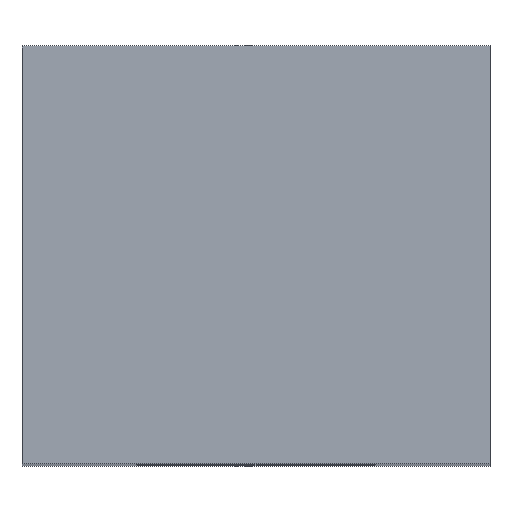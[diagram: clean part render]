
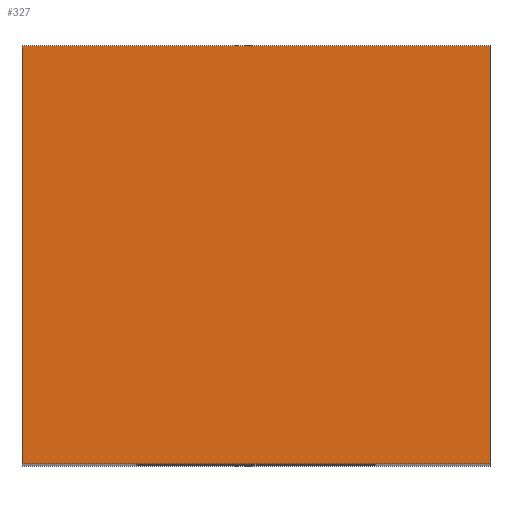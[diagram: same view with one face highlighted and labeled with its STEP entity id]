
A CAD part, top view. The second image highlights one B-rep face of the part: STEP entity #327.
In plain terms, the highlighted planar face has unit normal (0, 0, 1).
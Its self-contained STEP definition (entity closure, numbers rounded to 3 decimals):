
#24 = VERTEX_POINT('',#25);
#25 = CARTESIAN_POINT('',(0.98,4.2,6.88));
#32 = PLANE('',#33);
#33 = AXIS2_PLACEMENT_3D('',#34,#35,#36);
#34 = CARTESIAN_POINT('',(0.98,4.2,1.72));
#35 = DIRECTION('',(0.,1.,0.));
#36 = DIRECTION('',(0.,0.,1.));
#44 = PLANE('',#45);
#45 = AXIS2_PLACEMENT_3D('',#46,#47,#48);
#46 = CARTESIAN_POINT('',(0.98,4.2,1.72));
#47 = DIRECTION('',(-1.,0.,0.));
#48 = DIRECTION('',(0.,0.,1.));
#85 = VERTEX_POINT('',#86);
#86 = CARTESIAN_POINT('',(-0.98,4.2,6.88));
#100 = PLANE('',#101);
#101 = AXIS2_PLACEMENT_3D('',#102,#103,#104);
#102 = CARTESIAN_POINT('',(-0.98,4.2,1.72));
#103 = DIRECTION('',(-1.,0.,0.));
#104 = DIRECTION('',(0.,0.,1.));
#112 = EDGE_CURVE('',#24,#85,#113,.T.);
#113 = SURFACE_CURVE('',#114,(#118,#125),.PCURVE_S1.);
#114 = LINE('',#115,#116);
#115 = CARTESIAN_POINT('',(0.98,4.2,6.88));
#116 = VECTOR('',#117,1.);
#117 = DIRECTION('',(-1.,0.,0.));
#118 = PCURVE('',#32,#119);
#119 = DEFINITIONAL_REPRESENTATION('',(#120),#124);
#120 = LINE('',#121,#122);
#121 = CARTESIAN_POINT('',(5.16,0.));
#122 = VECTOR('',#123,1.);
#123 = DIRECTION('',(0.,-1.));
#124 = ( GEOMETRIC_REPRESENTATION_CONTEXT(2) 
PARAMETRIC_REPRESENTATION_CONTEXT() REPRESENTATION_CONTEXT('2D SPACE',''
  ) );
#125 = PCURVE('',#126,#131);
#126 = PLANE('',#127);
#127 = AXIS2_PLACEMENT_3D('',#128,#129,#130);
#128 = CARTESIAN_POINT('',(0.98,4.2,6.88));
#129 = DIRECTION('',(0.,0.,1.));
#130 = DIRECTION('',(0.,1.,0.));
#131 = DEFINITIONAL_REPRESENTATION('',(#132),#136);
#132 = LINE('',#133,#134);
#133 = CARTESIAN_POINT('',(0.,0.));
#134 = VECTOR('',#135,1.);
#135 = DIRECTION('',(0.,1.));
#136 = ( GEOMETRIC_REPRESENTATION_CONTEXT(2) 
PARAMETRIC_REPRESENTATION_CONTEXT() REPRESENTATION_CONTEXT('2D SPACE',''
  ) );
#279 = EDGE_CURVE('',#24,#280,#282,.T.);
#280 = VERTEX_POINT('',#281);
#281 = CARTESIAN_POINT('',(0.98,5.95,6.88));
#282 = SURFACE_CURVE('',#283,(#287,#294),.PCURVE_S1.);
#283 = LINE('',#284,#285);
#284 = CARTESIAN_POINT('',(0.98,4.2,6.88));
#285 = VECTOR('',#286,1.);
#286 = DIRECTION('',(0.,1.,0.));
#287 = PCURVE('',#44,#288);
#288 = DEFINITIONAL_REPRESENTATION('',(#289),#293);
#289 = LINE('',#290,#291);
#290 = CARTESIAN_POINT('',(5.16,0.));
#291 = VECTOR('',#292,1.);
#292 = DIRECTION('',(0.,1.));
#293 = ( GEOMETRIC_REPRESENTATION_CONTEXT(2) 
PARAMETRIC_REPRESENTATION_CONTEXT() REPRESENTATION_CONTEXT('2D SPACE',''
  ) );
#294 = PCURVE('',#126,#295);
#295 = DEFINITIONAL_REPRESENTATION('',(#296),#300);
#296 = LINE('',#297,#298);
#297 = CARTESIAN_POINT('',(0.,0.));
#298 = VECTOR('',#299,1.);
#299 = DIRECTION('',(1.,0.));
#300 = ( GEOMETRIC_REPRESENTATION_CONTEXT(2) 
PARAMETRIC_REPRESENTATION_CONTEXT() REPRESENTATION_CONTEXT('2D SPACE',''
  ) );
#316 = PLANE('',#317);
#317 = AXIS2_PLACEMENT_3D('',#318,#319,#320);
#318 = CARTESIAN_POINT('',(0.98,5.95,1.72));
#319 = DIRECTION('',(0.,1.,0.));
#320 = DIRECTION('',(0.,0.,1.));
#327 = ADVANCED_FACE('',(#328),#126,.T.);
#328 = FACE_BOUND('',#329,.T.);
#329 = EDGE_LOOP('',(#330,#331,#332,#355));
#330 = ORIENTED_EDGE('',*,*,#112,.F.);
#331 = ORIENTED_EDGE('',*,*,#279,.T.);
#332 = ORIENTED_EDGE('',*,*,#333,.T.);
#333 = EDGE_CURVE('',#280,#334,#336,.T.);
#334 = VERTEX_POINT('',#335);
#335 = CARTESIAN_POINT('',(-0.98,5.95,6.88));
#336 = SURFACE_CURVE('',#337,(#341,#348),.PCURVE_S1.);
#337 = LINE('',#338,#339);
#338 = CARTESIAN_POINT('',(0.98,5.95,6.88));
#339 = VECTOR('',#340,1.);
#340 = DIRECTION('',(-1.,0.,0.));
#341 = PCURVE('',#126,#342);
#342 = DEFINITIONAL_REPRESENTATION('',(#343),#347);
#343 = LINE('',#344,#345);
#344 = CARTESIAN_POINT('',(1.75,0.));
#345 = VECTOR('',#346,1.);
#346 = DIRECTION('',(0.,1.));
#347 = ( GEOMETRIC_REPRESENTATION_CONTEXT(2) 
PARAMETRIC_REPRESENTATION_CONTEXT() REPRESENTATION_CONTEXT('2D SPACE',''
  ) );
#348 = PCURVE('',#316,#349);
#349 = DEFINITIONAL_REPRESENTATION('',(#350),#354);
#350 = LINE('',#351,#352);
#351 = CARTESIAN_POINT('',(5.16,0.));
#352 = VECTOR('',#353,1.);
#353 = DIRECTION('',(0.,-1.));
#354 = ( GEOMETRIC_REPRESENTATION_CONTEXT(2) 
PARAMETRIC_REPRESENTATION_CONTEXT() REPRESENTATION_CONTEXT('2D SPACE',''
  ) );
#355 = ORIENTED_EDGE('',*,*,#356,.F.);
#356 = EDGE_CURVE('',#85,#334,#357,.T.);
#357 = SURFACE_CURVE('',#358,(#362,#369),.PCURVE_S1.);
#358 = LINE('',#359,#360);
#359 = CARTESIAN_POINT('',(-0.98,4.2,6.88));
#360 = VECTOR('',#361,1.);
#361 = DIRECTION('',(0.,1.,0.));
#362 = PCURVE('',#126,#363);
#363 = DEFINITIONAL_REPRESENTATION('',(#364),#368);
#364 = LINE('',#365,#366);
#365 = CARTESIAN_POINT('',(0.,1.96));
#366 = VECTOR('',#367,1.);
#367 = DIRECTION('',(1.,0.));
#368 = ( GEOMETRIC_REPRESENTATION_CONTEXT(2) 
PARAMETRIC_REPRESENTATION_CONTEXT() REPRESENTATION_CONTEXT('2D SPACE',''
  ) );
#369 = PCURVE('',#100,#370);
#370 = DEFINITIONAL_REPRESENTATION('',(#371),#375);
#371 = LINE('',#372,#373);
#372 = CARTESIAN_POINT('',(5.16,0.));
#373 = VECTOR('',#374,1.);
#374 = DIRECTION('',(0.,1.));
#375 = ( GEOMETRIC_REPRESENTATION_CONTEXT(2) 
PARAMETRIC_REPRESENTATION_CONTEXT() REPRESENTATION_CONTEXT('2D SPACE',''
  ) );
